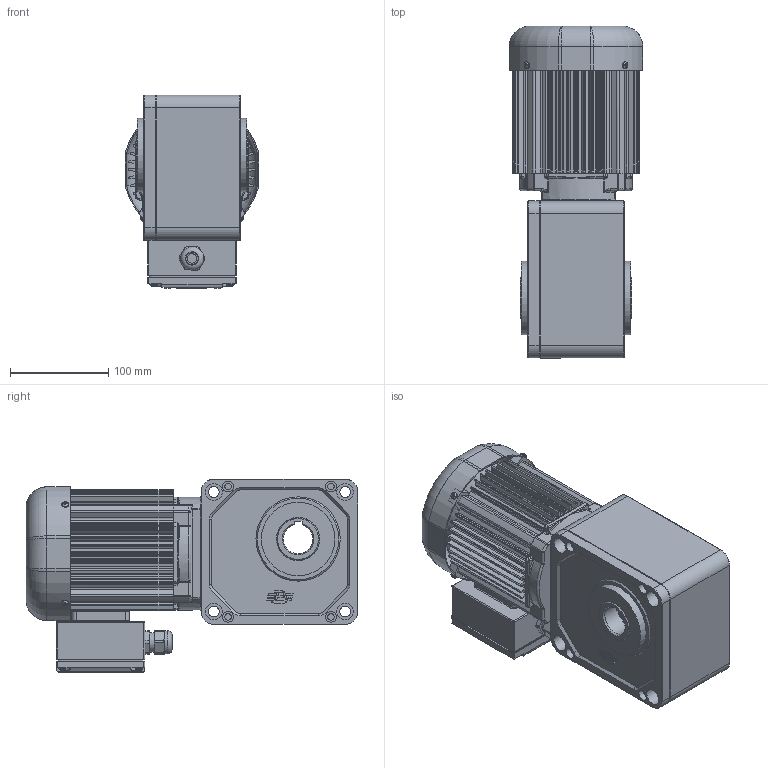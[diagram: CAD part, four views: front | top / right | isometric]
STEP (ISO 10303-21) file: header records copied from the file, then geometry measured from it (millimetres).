
FILE_DESCRIPTION(/* description */ (''),/* implementation_level */ '2;1');
FILE_NAME(/* name */ 'Z:\동력 3D 파일\PCH30_0.2kW_3D.stp',/* time_stamp */ '2021-11-09T09:41:26+09:00',/* author */ ('jaebok'),/* organization */ (''),/* preprocessor_version */ 'ST-DEVELOPER v18.1',/* originating_system */ 'Autodesk Inventor 2022',/* authorisation */ '');
FILE_SCHEMA (('AUTOMOTIVE_DESIGN { 1 0 10303 214 3 1 1 }'));
Products named in the file (1): 부품21
Bounding box: 136.4 x 338.5 x 197.5 mm (x, y, z)
Volume: 1894529.4 mm3; surface area: 547344.9 mm2
Topology: 1 solids, 32 shells, 1888 faces, 4890 edges, 3104 vertices
Faces by surface type: plane 854, cylinder 692, torus 133, cone 101, bspline 92, sphere 16
Full cylindrical faces by diameter (mm): 3.242 x9, 3.25 x1, 3.6 x4, 4 x21, 5 x13, 5.386 x4, 6 x8, 6.5 x4, 7 x12, 8 x1, 10 x1, 11 x8, 12.5 x1, 15 x1, 17 x12, 20 x2, 21 x1, 23.6 x1, 25 x1, 27 x1, 34 x1, 44 x4, 45 x2, 50 x1, 65 x2, 73 x2, 75 x2, 101 x1, 105 x2, 109 x4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
Entity records: 63916 total; most frequent: CARTESIAN_POINT 15299, DIRECTION 10018, ORIENTED_EDGE 9684, EDGE_CURVE 4842, AXIS2_PLACEMENT_3D 3801, VERTEX_POINT 3104, LINE 2416, VECTOR 2416
